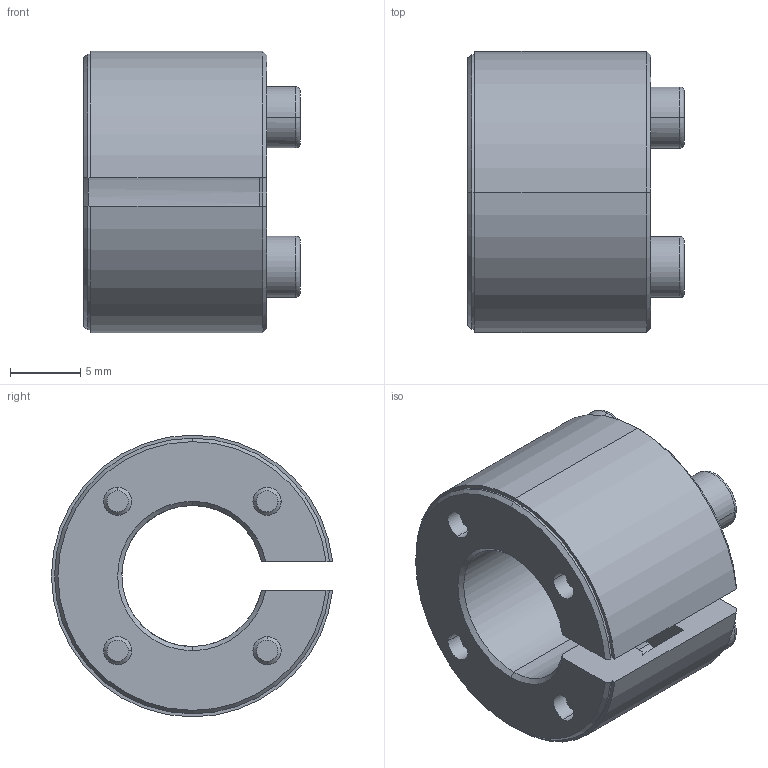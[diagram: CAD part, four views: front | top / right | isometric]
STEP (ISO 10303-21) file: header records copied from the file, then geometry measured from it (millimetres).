
FILE_DESCRIPTION (( 'STEP AP214' ), '1' );
FILE_NAME ('SAPL-E-10X20.STEP', '2024-07-12T01:59:23', ( '决扁浅何厘' ), ( '' ), 'SwSTEP 2.0', 'SolidWorks 2024', '' );
FILE_SCHEMA (( 'AUTOMOTIVE_DESIGN' ));
Length unit declared in the file: millimetre
Products named in the file (1): SAPL-E-10X20
Bounding box: 15.35 x 19.95 x 20 mm (x, y, z)
Volume: 2521.5 mm3; surface area: 2975.3 mm2
Topology: 1 solids, 1 shells, 143 faces, 361 edges, 228 vertices
Faces by surface type: plane 52, cylinder 48, cone 35, torus 8
Entity records: 4434 total; most frequent: CARTESIAN_POINT 849, DIRECTION 794, ORIENTED_EDGE 722, EDGE_CURVE 361, AXIS2_PLACEMENT_3D 318, VERTEX_POINT 228, CIRCLE 174, EDGE_LOOP 165
